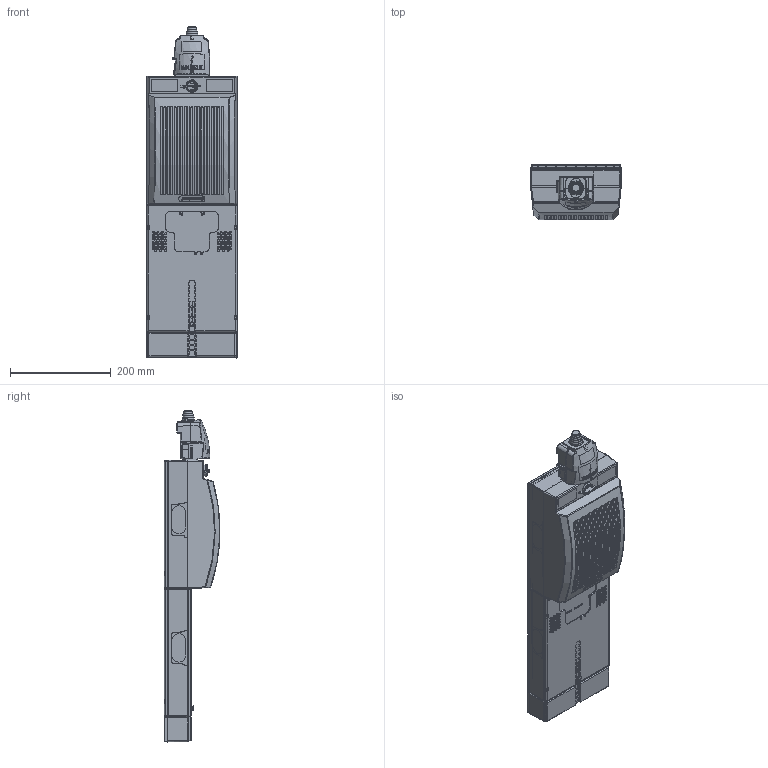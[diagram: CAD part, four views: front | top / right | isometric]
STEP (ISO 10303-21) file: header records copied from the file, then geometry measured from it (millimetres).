
FILE_DESCRIPTION(/* description */ ('Unknown'),/* implementation_level */ '2;1');
FILE_NAME(/* name */ 'PLO + verlengstuk',/* time_stamp */ '2026-08-17T10:10:07+02:00',/* author */ ('Unknown'),/* organization */ ('Unknown'),/* preprocessor_version */ 'ST-DEVELOPER v20',/* originating_system */ 'Solid Edge',/* authorisation */ 'Unknown');
FILE_SCHEMA (('CONFIG_CONTROL_DESIGN'));
Products named in the file (12): PLO + verlengstuk; bak groot 2_02 obo v5; deksel groot vlak obo v2; blindplaat_02 OBO v2; cover groot_03 obo dummy v2; knop dummy v2; Stekker bovenkant 2 dicht; invoerrubber dicht v2; stekker dummy onder v2; schuif_02 dummy v3; montageplaat dummy; Meterbord Verlengstuk dummy
Assembly tree (16 placements, depth 2):
  PLO + verlengstuk
    bak groot 2_02 obo v5  x2
    deksel groot vlak obo v2
    blindplaat_02 OBO v2  x4
    cover groot_03 obo dummy v2
    knop dummy v2
    Stekker bovenkant 2 dicht
    invoerrubber dicht v2
    stekker dummy onder v2
    schuif_02 dummy v3
    montageplaat dummy  x2
    Meterbord Verlengstuk dummy
Bounding box: 180.52 x 111.08 x 660.01 mm (x, y, z)
Volume: 934632.4 mm3; surface area: 911793.8 mm2
Topology: 16 solids, 16 shells, 4361 faces, 12019 edges, 7652 vertices
Faces by surface type: plane 2252, cylinder 1155, bspline 369, cone 303, torus 191, sphere 91
Full cylindrical faces by diameter (mm): 5.5 x1, 9 x1, 19 x1
Entity records: 131347 total; most frequent: CARTESIAN_POINT 45865, ORIENTED_EDGE 19324, DIRECTION 15143, EDGE_CURVE 9662, VERTEX_POINT 6157, LINE 5459, VECTOR 5459, AXIS2_PLACEMENT_3D 4842
